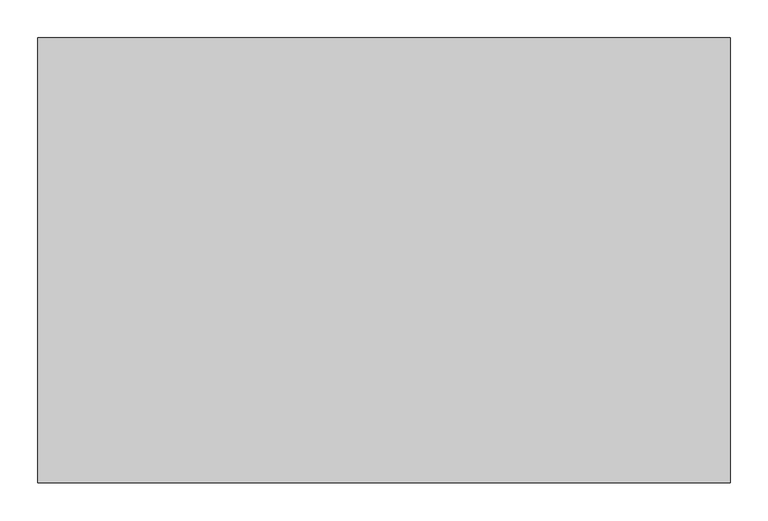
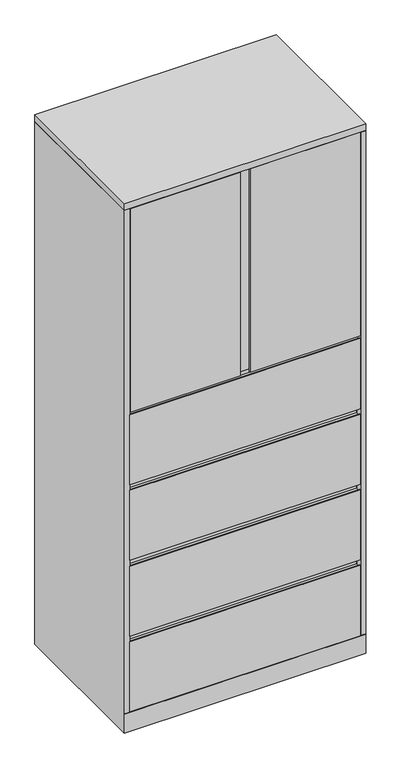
"""IFC4 building model written with IfcOpenShell, lengths in millimetres: furniture geometry, Steelcase - Universal Storage - Cabinet - Combination - Flush Steel : 83 1/2H - 4 Drawers - 23 1/8D x 30W."""

from ifc_helpers import new_model, si_unit, frame, origin, place, context, project, spatial, polyline, outline, extrude, faceted_brep, source, transform, mapped, element, save


def furniture_7115fd61(model_context):
    return source(origin(), model_context, "Body", "SolidModel", [
        extrude(outline(polyline([(21.8068168, -561.975866), (893.572, -561.975866), (893.572, -587.502), (476.25, -587.502), (476.25, -583.185482), (489.4189152, -583.185482), (489.4189152, -568.3258781), (438.15, -568.3258781), (438.15, -587.502), (21.8068168, -587.502), (21.8068168, -561.975866)])), frame((0.0, 0.0, 1278.636), z_axis=(0.0, 0.0, 1.0), x_axis=(1.0, 0.0, 0.0)), (0.0, 0.0, 1.0), 815.34),
        extrude(outline(polyline([(914.4, 0.0), (914.4, -587.502), (0.0, -587.502), (0.0, 0.0), (914.4, 0.0)])), frame((0.0, 0.0, 2095.4999516), z_axis=(0.0, 0.0, 1.0), x_axis=(1.0, 0.0, 0.0)), (0.0, 0.0, 1.0), 25.4000484),
        extrude(outline(polyline([(889.0000242, -25.4000008), (889.0000242, -560.4518674), (25.4000008, -560.4518674), (25.4000008, -25.4000008), (889.0000242, -25.4000008)])), frame((0.0, 0.0, 1875.1550484), z_axis=(0.0, 0.0, 1.0), x_axis=(1.0, 0.0, 0.0)), (0.0, 0.0, 1.0), 22.2249516),
        extrude(outline(polyline([(889.0000242, -25.4000008), (889.0000242, -560.4518674), (25.4000008, -560.4518674), (25.4000008, -25.4000008), (889.0000242, -25.4000008)])), frame((0.0, 0.0, 1571.8790484), z_axis=(0.0, 0.0, 1.0), x_axis=(1.0, 0.0, 0.0)), (0.0, 0.0, 1.0), 22.2249516),
        extrude(outline(polyline([(-587.502, 358.7750484), (-584.3262491, 358.7750484), (-584.3262491, 349.2500484), (-561.975866, 349.2500484), (-561.975866, 381.0), (-560.4518674, 381.0), (-560.4518674, 349.2500484), (-560.4518674, 77.724), (-587.502, 77.724), (-587.502, 358.7750484)])), frame((20.8280006, 0.0, 0.0), z_axis=(1.0, 0.0, 0.0), x_axis=(0.0, 1.0, 0.0)), (0.0, 0.0, 1.0), 872.7439994),
        extrude(outline(polyline([(889.0000242, -25.4000008), (889.0000242, -560.4518674), (25.4000008, -560.4518674), (25.4000008, -25.4000008), (889.0000242, -25.4000008)])), frame((0.0, 0.0, 358.7750484), z_axis=(0.0, 0.0, 1.0), x_axis=(1.0, 0.0, 0.0)), (0.0, 0.0, 1.0), 22.2249516),
        extrude(outline(polyline([(-587.502, 1268.6030484), (-584.3262491, 1268.6030484), (-584.3262491, 1259.0780484), (-561.975866, 1259.0780484), (-561.975866, 1290.828), (-560.4518674, 1290.828), (-560.4518674, 1259.0780484), (-560.4518674, 987.552), (-587.502, 987.552), (-587.502, 1268.6030484)])), frame((20.8280006, 0.0, 0.0), z_axis=(1.0, 0.0, 0.0), x_axis=(0.0, 1.0, 0.0)), (0.0, 0.0, 1.0), 872.7439994),
        extrude(outline(polyline([(889.0000242, -25.4000008), (889.0000242, -560.4518674), (25.4000008, -560.4518674), (25.4000008, -25.4000008), (889.0000242, -25.4000008)])), frame((0.0, 0.0, 1268.6030484), z_axis=(0.0, 0.0, 1.0), x_axis=(1.0, 0.0, 0.0)), (0.0, 0.0, 1.0), 22.2249516),
        extrude(outline(polyline([(-587.502, 965.3270484), (-584.3262491, 965.3270484), (-584.3262491, 955.8020484), (-561.975866, 955.8020484), (-561.975866, 987.552), (-560.4518674, 987.552), (-560.4518674, 955.8020484), (-560.4518674, 684.276), (-587.502, 684.276), (-587.502, 965.3270484)])), frame((20.8280006, 0.0, 0.0), z_axis=(1.0, 0.0, 0.0), x_axis=(0.0, 1.0, 0.0)), (0.0, 0.0, 1.0), 872.7439994),
        extrude(outline(polyline([(889.0000242, -25.4000008), (889.0000242, -560.4518674), (25.4000008, -560.4518674), (25.4000008, -25.4000008), (889.0000242, -25.4000008)])), frame((0.0, 0.0, 965.3270484), z_axis=(0.0, 0.0, 1.0), x_axis=(1.0, 0.0, 0.0)), (0.0, 0.0, 1.0), 22.2249516),
        extrude(outline(polyline([(-587.502, 662.0510484), (-584.3262491, 662.0510484), (-584.3262491, 652.5260484), (-561.975866, 652.5260484), (-561.975866, 684.276), (-560.4518674, 684.276), (-560.4518674, 652.5260484), (-560.4518674, 381.0), (-587.502, 381.0), (-587.502, 662.0510484)])), frame((20.8280006, 0.0, 0.0), z_axis=(1.0, 0.0, 0.0), x_axis=(0.0, 1.0, 0.0)), (0.0, 0.0, 1.0), 872.7439994),
        extrude(outline(polyline([(889.0000242, -25.4000008), (889.0000242, -560.4518674), (25.4000008, -560.4518674), (25.4000008, -25.4000008), (889.0000242, -25.4000008)])), frame((0.0, 0.0, 662.0510484), z_axis=(0.0, 0.0, 1.0), x_axis=(1.0, 0.0, 0.0)), (0.0, 0.0, 1.0), 22.2249516),
        faceted_brep([(914.4, 0.0, 0.0), (914.4, -587.502, 0.0), (0.0, -587.502, 0.0), (0.0, 0.0, 0.0), (0.0, 0.0, 2093.976), (914.4, 0.0, 2093.976), (0.0, -587.502, 76.2), (0.0, -587.502, 77.724), (0.0, -587.502, 2093.976), (914.4, -587.502, 76.2), (914.4, -587.502, 2093.976), (914.4, -587.502, 77.724), (889.0000242, -25.4000008, 2093.976), (889.0000242, -560.4518674, 2093.976), (893.572, -560.4518674, 2093.976), (893.572, -561.9758781, 2093.976), (895.096, -561.9758781, 2093.976), (895.096, -587.502, 2093.976), (19.304, -587.502, 2093.976), (19.304, -561.975866, 2093.976), (20.8280006, -561.975866, 2093.976), (20.8280006, -560.4518674, 2093.976), (25.4000008, -560.4518674, 2093.976), (25.4000008, -25.4000008, 2093.976), (19.304, -587.502, 77.724), (19.304, -568.198, 77.724), (895.096, -587.502, 77.724), (895.096, -568.0718418, 77.724), (889.0000242, -25.4000008, 77.724), (889.0000242, -560.4518674, 77.724), (893.572, -560.4518674, 77.724), (893.572, -561.9758781, 77.724), (895.096, -561.9758781, 77.724), (19.304, -561.975866, 77.724), (20.8280006, -561.975866, 77.724), (20.8280006, -560.4518674, 77.724), (25.4000008, -560.4518674, 77.724), (25.4000008, -25.4000008, 77.724), (25.526134, -561.975866, 77.724), (889.0000242, -561.975866, 77.724)], [[[0, 1, 2, 3]], [[0, 3, 4, 5]], [[4, 3, 2, 6, 7, 8]], [[2, 1, 9, 6]], [[1, 0, 5, 10, 11, 9]], [[12, 13, 14, 15, 16, 17, 10, 5, 4, 8, 18, 19, 20, 21, 22, 23]], [[24, 7, 25]], [[11, 26, 27]], [[13, 12, 28, 29]], [[14, 13, 29, 30]], [[15, 14, 30, 31]], [[16, 15, 31, 32]], [[17, 16, 32, 27, 26]], [[10, 17, 26, 11]], [[18, 8, 7, 24]], [[19, 18, 24, 25, 33]], [[20, 19, 33, 34]], [[21, 20, 34, 35]], [[22, 21, 35, 36]], [[23, 22, 36, 37]], [[12, 23, 37, 28]], [[38, 39, 27, 32, 31, 30, 29, 28, 37, 36, 35, 34, 33, 25]], [[7, 6, 38, 25]], [[39, 38, 6, 9]], [[39, 9, 11, 27]]]),
    ])


if __name__ == "__main__":
    model = new_model("IFC4")
    model_context = context("Model", 3, world=origin())
    ifc_project = project(units=[si_unit("LENGTHUNIT", "METRE", prefix="MILLI")], contexts=[model_context])
    site = spatial("IfcSite", under=ifc_project)
    building = spatial("IfcBuilding", under=site)
    placement = place(None, origin())
    furniture_shape = furniture_7115fd61(model_context)
    element("IfcFurniture", 1, ObjectType="Steelcase - Universal Storage - Cabinet - Combination - Flush Steel : 83 1/2H - 4 Drawers - 23 1/8D x 30W", at=placement, inside=building, context=model_context, shape_type="MappedRepresentation", body=[
        mapped(furniture_shape, transform((0.0, 0.0, 0.0), x_axis=(1.0, 0.0, 0.0), y_axis=(0.0, 1.0, 0.0), z_axis=(0.0, 0.0, 1.0))),
    ])
    save(model, "model.ifc")
